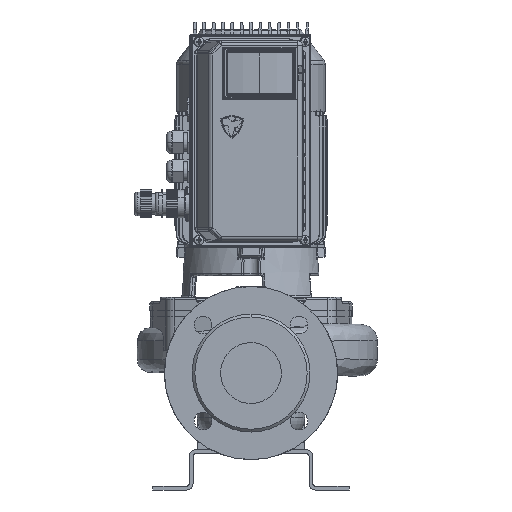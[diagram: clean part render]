
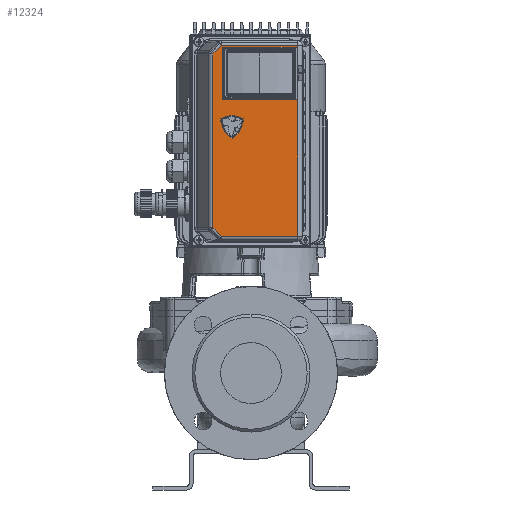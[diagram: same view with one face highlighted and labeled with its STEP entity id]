
A CAD part, front view. The second image highlights one B-rep face of the part: STEP entity #12324.
In plain terms, the highlighted planar face has unit normal (0, -1, 0) as drawn and (0, 0.276, -0.961) by its records, which use the part's own axes.
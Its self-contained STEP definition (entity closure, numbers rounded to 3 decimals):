
#12324=ADVANCED_FACE('',(#24208,#24209),#24210,.F.);
#24208=FACE_BOUND('',#44605,.T.);
#24209=FACE_OUTER_BOUND('',#44606,.T.);
#24210=PLANE('',#44607);
#44605=EDGE_LOOP('',(#71217,#71218,#71219,#71220));
#44606=EDGE_LOOP('',(#71221,#71222,#71223,#71224,#71225,#71226));
#44607=AXIS2_PLACEMENT_3D('',#71227,#71228,#71229);
#71217=ORIENTED_EDGE('',*,*,#95492,.T.);
#71218=ORIENTED_EDGE('',*,*,#95495,.T.);
#71219=ORIENTED_EDGE('',*,*,#95485,.T.);
#71220=ORIENTED_EDGE('',*,*,#95489,.T.);
#71221=ORIENTED_EDGE('',*,*,#94581,.F.);
#71222=ORIENTED_EDGE('',*,*,#96333,.F.);
#71223=ORIENTED_EDGE('',*,*,#96339,.F.);
#71224=ORIENTED_EDGE('',*,*,#95058,.T.);
#71225=ORIENTED_EDGE('',*,*,#95871,.T.);
#71226=ORIENTED_EDGE('',*,*,#96337,.T.);
#71227=CARTESIAN_POINT('',(0.,13.785,32.694));
#71228=DIRECTION('',(0.0,-0.276,0.961));
#71229=DIRECTION('',(-0.0,0.961,0.276));
#94581=EDGE_CURVE('',#118371,#118373,#118374,.T.);
#95058=EDGE_CURVE('',#119188,#119186,#119189,.T.);
#95485=EDGE_CURVE('',#119909,#119910,#119911,.T.);
#95489=EDGE_CURVE('',#119910,#119915,#119916,.T.);
#95492=EDGE_CURVE('',#119915,#119919,#119920,.T.);
#95495=EDGE_CURVE('',#119919,#119909,#119923,.T.);
#95871=EDGE_CURVE('',#119186,#120352,#120354,.T.);
#96333=EDGE_CURVE('',#120874,#118371,#120876,.T.);
#96337=EDGE_CURVE('',#120352,#118373,#120880,.T.);
#96339=EDGE_CURVE('',#119188,#120874,#120882,.T.);
#118371=VERTEX_POINT('',#136061);
#118373=VERTEX_POINT('',#136063);
#118374=LINE('',#136064,#136065);
#119186=VERTEX_POINT('',#137004);
#119188=VERTEX_POINT('',#137006);
#119189=LINE('',#137007,#137008);
#119909=VERTEX_POINT('',#137867);
#119910=VERTEX_POINT('',#137868);
#119911=LINE('',#137869,#137870);
#119915=VERTEX_POINT('',#137876);
#119916=LINE('',#137877,#137878);
#119919=VERTEX_POINT('',#137882);
#119920=LINE('',#137883,#137884);
#119923=LINE('',#137888,#137889);
#120352=VERTEX_POINT('',#138369);
#120354=LINE('',#138371,#138372);
#120874=VERTEX_POINT('',#138990);
#120876=LINE('',#138992,#138993);
#120880=LINE('',#138997,#138998);
#120882=LINE('',#139000,#139001);
#136061=CARTESIAN_POINT('',(-102.0,48.307,42.593));
#136063=CARTESIAN_POINT('',(-102.0,-29.808,20.194));
#136064=CARTESIAN_POINT('',(-102.0,-21.808,22.488));
#136065=VECTOR('',#153137,1.);
#137004=CARTESIAN_POINT('',(102.0,48.307,42.593));
#137006=CARTESIAN_POINT('',(92.929,57.378,45.194));
#137007=CARTESIAN_POINT('',(81.022,69.285,48.608));
#137008=VECTOR('',#154027,1.);
#137867=CARTESIAN_POINT('',(-50.,42.286,40.866));
#137868=CARTESIAN_POINT('',(-95.,42.286,40.866));
#137869=CARTESIAN_POINT('',(-36.25,42.286,40.866));
#137870=VECTOR('',#154815,1.);
#137876=CARTESIAN_POINT('',(-95.,-24.041,21.847));
#137877=CARTESIAN_POINT('',(-95.,11.454,32.025));
#137878=VECTOR('',#154818,1.);
#137882=CARTESIAN_POINT('',(-50.,-24.041,21.847));
#137883=CARTESIAN_POINT('',(-36.25,-24.041,21.847));
#137884=VECTOR('',#154820,1.);
#137888=CARTESIAN_POINT('',(-50.,11.454,32.025));
#137889=VECTOR('',#154822,1.);
#138369=CARTESIAN_POINT('',(102.0,-29.808,20.194));
#138371=CARTESIAN_POINT('',(102.0,-21.808,22.488));
#138372=VECTOR('',#155408,1.0);
#138990=CARTESIAN_POINT('',(-92.929,57.378,45.194));
#138992=CARTESIAN_POINT('',(-81.022,69.285,48.608));
#138993=VECTOR('',#156083,1.);
#138997=CARTESIAN_POINT('',(0.,-29.808,20.194));
#138998=VECTOR('',#156087,1.0);
#139000=CARTESIAN_POINT('',(0.,57.378,45.194));
#139001=VECTOR('',#156088,1.0);
#153137=DIRECTION('',(0.,-0.961,-0.276));
#154027=DIRECTION('',(0.693,-0.693,-0.199));
#154815=DIRECTION('',(-1.0,0.,0.));
#154818=DIRECTION('',(-0.0,-0.961,-0.276));
#154820=DIRECTION('',(1.0,0.,0.));
#154822=DIRECTION('',(-0.0,0.961,0.276));
#155408=DIRECTION('',(0.,-0.961,-0.276));
#156083=DIRECTION('',(-0.693,-0.693,-0.199));
#156087=DIRECTION('',(-1.0,0.0,0.0));
#156088=DIRECTION('',(-1.0,0.0,0.0));
